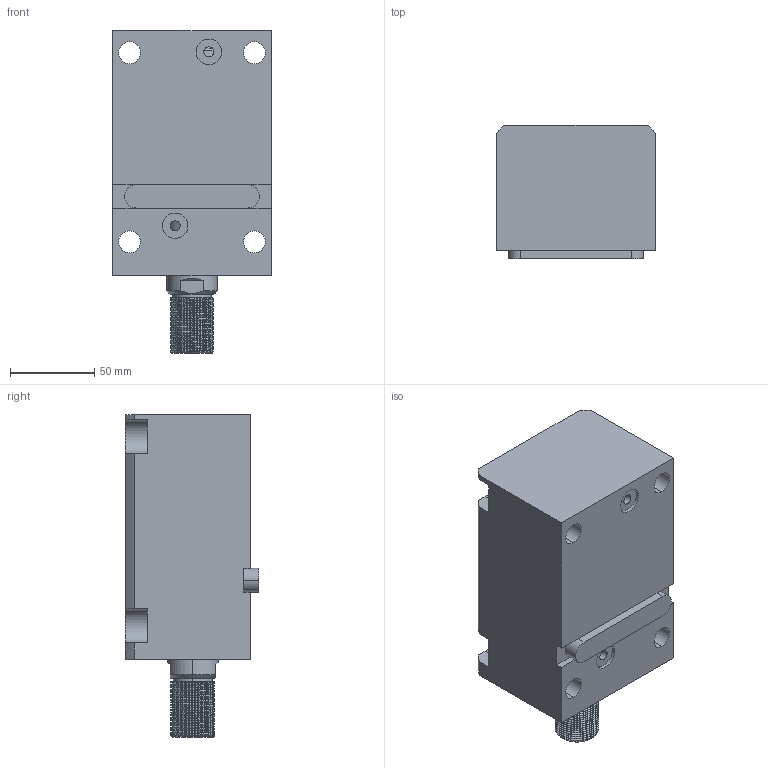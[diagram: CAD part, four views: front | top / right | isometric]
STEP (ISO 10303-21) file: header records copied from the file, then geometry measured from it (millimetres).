
FILE_DESCRIPTION (( 'STEP AP203' ), '1' );
FILE_NAME ('CHTB-LAM50-85W.STEP', '2018-05-23T11:18:39', ( '' ), ( '' ), 'SwSTEP 2.0', 'SolidWorks 2015', '' );
FILE_SCHEMA (( 'CONFIG_CONTROL_DESIGN' ));
Length unit declared in the file: millimetre
Products named in the file (4): CHTB-LAM50-85W; 活塞杆LAM50-85W; 掛极LAM50-85W; CHTM-SDMA50QG
Assembly tree (3 placements, depth 2):
  CHTB-LAM50-85W
    掛极LAM50-85W
    活塞杆LAM50-85W
    CHTM-SDMA50QG
Bounding box: 94 x 79 x 191 mm (x, y, z)
Volume: 872479 mm3; surface area: 135782.5 mm2
Topology: 3 solids, 3 shells, 234 faces, 652 edges, 436 vertices
Faces by surface type: cylinder 136, plane 53, bspline 16, torus 16, cone 13
Entity records: 14802 total; most frequent: CARTESIAN_POINT 8867, ORIENTED_EDGE 1296, DIRECTION 1023, EDGE_CURVE 648, VERTEX_POINT 436, AXIS2_PLACEMENT_3D 395, EDGE_LOOP 264, FACE_OUTER_BOUND 234
